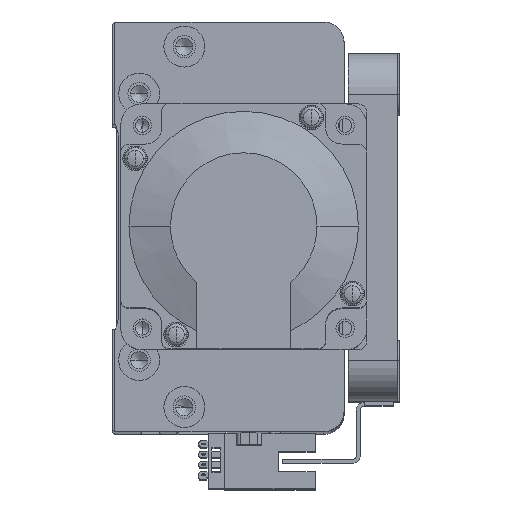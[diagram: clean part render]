
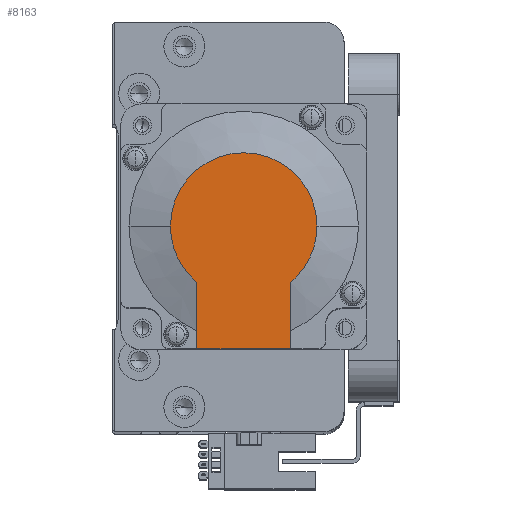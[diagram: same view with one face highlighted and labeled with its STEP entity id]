
A CAD part, top view. The second image highlights one B-rep face of the part: STEP entity #8163.
In plain terms, the highlighted planar face has unit normal (0, 0, 1) as drawn and (-1, 0, 0) by its records, which use the part's own axes.
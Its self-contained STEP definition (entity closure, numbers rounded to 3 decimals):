
#416 = EDGE_CURVE ( 'NONE', #45799, #27467, #2331, .T. ) ;
#598 = DIRECTION ( 'NONE',  ( -1., 0., 0. ) ) ;
#724 = FACE_OUTER_BOUND ( 'NONE', #38561, .T. ) ;
#934 = ORIENTED_EDGE ( 'NONE', *, *, #31788, .T. ) ;
#2331 = LINE ( 'NONE', #3273, #26685 ) ;
#2615 = CARTESIAN_POINT ( 'NONE',  ( -118.5, 0., -17.881 ) ) ;
#3228 = DIRECTION ( 'NONE',  ( 0., -1., 0. ) ) ;
#3273 = CARTESIAN_POINT ( 'NONE',  ( -118.5, 0., 11.45 ) ) ;
#4955 = ORIENTED_EDGE ( 'NONE', *, *, #416, .F. ) ;
#5383 = ORIENTED_EDGE ( 'NONE', *, *, #36571, .T. ) ;
#6166 = DIRECTION ( 'NONE',  ( -1., 0., 0. ) ) ;
#7337 = LINE ( 'NONE', #50786, #37256 ) ;
#8163 = ADVANCED_FACE ( 'NONE', ( #724 ), #13870, .T. ) ;
#8401 = VECTOR ( 'NONE', #22050, 1000. ) ;
#8764 = CARTESIAN_POINT ( 'NONE',  ( -118.5, 0., 0. ) ) ;
#10540 = VERTEX_POINT ( 'NONE', #21493 ) ;
#11842 = CARTESIAN_POINT ( 'NONE',  ( -118.5, 30., 11.45 ) ) ;
#12683 = DIRECTION ( 'NONE',  ( 0., 0., -1. ) ) ;
#12812 = ORIENTED_EDGE ( 'NONE', *, *, #37553, .T. ) ;
#13870 = PLANE ( 'NONE',  #21863 ) ;
#14243 = CARTESIAN_POINT ( 'NONE',  ( -118.5, 0., 0. ) ) ;
#14927 = CARTESIAN_POINT ( 'NONE',  ( -118.5, 13.735, -11.45 ) ) ;
#16158 = EDGE_CURVE ( 'NONE', #34014, #42291, #35427, .T. ) ;
#18120 = DIRECTION ( 'NONE',  ( 0., 0., -1. ) ) ;
#18713 = LINE ( 'NONE', #37663, #8401 ) ;
#21493 = CARTESIAN_POINT ( 'NONE',  ( -118.5, 30., -11.45 ) ) ;
#21863 = AXIS2_PLACEMENT_3D ( 'NONE', #29460, #6166, #33402 ) ;
#22050 = DIRECTION ( 'NONE',  ( 0., -1., 0. ) ) ;
#23966 = CARTESIAN_POINT ( 'NONE',  ( -118.5, 0., 0. ) ) ;
#26358 = CIRCLE ( 'NONE', #44979, 17.881 ) ;
#26685 = VECTOR ( 'NONE', #3228, 1000. ) ;
#27107 = DIRECTION ( 'NONE',  ( 0., 0., 1. ) ) ;
#27467 = VERTEX_POINT ( 'NONE', #30006 ) ;
#27869 = DIRECTION ( 'NONE',  ( 0., 0., -1. ) ) ;
#29460 = CARTESIAN_POINT ( 'NONE',  ( -118.5, -8.941, 0. ) ) ;
#30006 = CARTESIAN_POINT ( 'NONE',  ( -118.5, 13.735, 11.45 ) ) ;
#31788 = EDGE_CURVE ( 'NONE', #10540, #34014, #18713, .T. ) ;
#32892 = ORIENTED_EDGE ( 'NONE', *, *, #16158, .T. ) ;
#33402 = DIRECTION ( 'NONE',  ( 0., 0., 1. ) ) ;
#34014 = VERTEX_POINT ( 'NONE', #14927 ) ;
#35427 = CIRCLE ( 'NONE', #47837, 17.881 ) ;
#36047 = DIRECTION ( 'NONE',  ( -1., 0., 0. ) ) ;
#36571 = EDGE_CURVE ( 'NONE', #40589, #27467, #43897, .T. ) ;
#37256 = VECTOR ( 'NONE', #27107, 1000. ) ;
#37553 = EDGE_CURVE ( 'NONE', #42291, #40589, #26358, .T. ) ;
#37663 = CARTESIAN_POINT ( 'NONE',  ( -118.5, -8.941, -11.45 ) ) ;
#38561 = EDGE_LOOP ( 'NONE', ( #934, #32892, #12812, #5383, #4955, #44927 ) ) ;
#39273 = AXIS2_PLACEMENT_3D ( 'NONE', #14243, #41638, #18120 ) ;
#40589 = VERTEX_POINT ( 'NONE', #41197 ) ;
#40807 = EDGE_CURVE ( 'NONE', #10540, #45799, #7337, .T. ) ;
#41197 = CARTESIAN_POINT ( 'NONE',  ( -118.5, 0., 17.881 ) ) ;
#41638 = DIRECTION ( 'NONE',  ( -1., 0., 0. ) ) ;
#42291 = VERTEX_POINT ( 'NONE', #2615 ) ;
#43897 = CIRCLE ( 'NONE', #39273, 17.881 ) ;
#44927 = ORIENTED_EDGE ( 'NONE', *, *, #40807, .F. ) ;
#44979 = AXIS2_PLACEMENT_3D ( 'NONE', #23966, #598, #27869 ) ;
#45799 = VERTEX_POINT ( 'NONE', #11842 ) ;
#47837 = AXIS2_PLACEMENT_3D ( 'NONE', #8764, #36047, #12683 ) ;
#50786 = CARTESIAN_POINT ( 'NONE',  ( -118.5, 30., 25. ) ) ;
